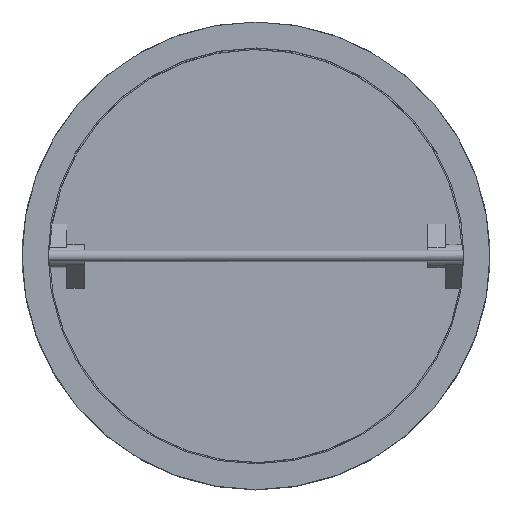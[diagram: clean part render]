
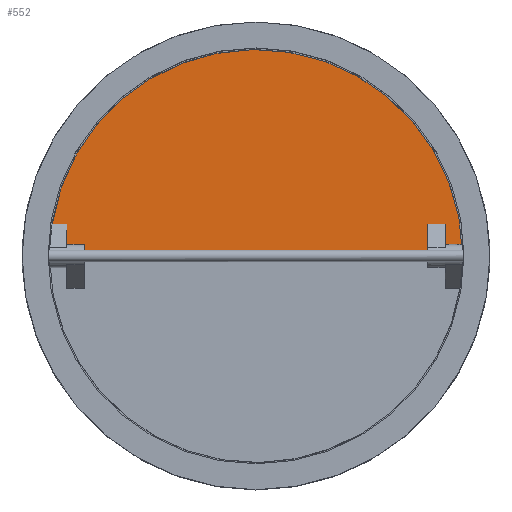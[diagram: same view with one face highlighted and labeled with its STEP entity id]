
A CAD part, top view. The second image highlights one B-rep face of the part: STEP entity #552.
In plain terms, the highlighted planar face has unit normal (0, 0, 1).
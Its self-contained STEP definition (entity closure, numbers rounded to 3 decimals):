
#552=ADVANCED_FACE('',(#1133),#1135,.T.);
#1133=FACE_BOUND('',#1134,.T.);
#1134=EDGE_LOOP('',(#1544,#1545,#1546,#1547,#1548,#1549,#1550,#1551));
#1135=PLANE('',#1136);
#1136=AXIS2_PLACEMENT_3D('',#1137,#1138,#1139);
#1137=CARTESIAN_POINT('',(0.,0.,59.));
#1138=DIRECTION('',(0.,0.,1.));
#1139=DIRECTION('',(0.,1.,0.));
#1544=ORIENTED_EDGE('',*,*,#1804,.F.);
#1545=ORIENTED_EDGE('',*,*,#1805,.F.);
#1546=ORIENTED_EDGE('',*,*,#1767,.T.);
#1547=ORIENTED_EDGE('',*,*,#1806,.F.);
#1548=ORIENTED_EDGE('',*,*,#1807,.F.);
#1549=ORIENTED_EDGE('',*,*,#1808,.F.);
#1550=ORIENTED_EDGE('',*,*,#1763,.T.);
#1551=ORIENTED_EDGE('',*,*,#1759,.T.);
#1759=EDGE_CURVE('',#2036,#2034,#2037,.T.);
#1763=EDGE_CURVE('',#2042,#2036,#2043,.T.);
#1767=EDGE_CURVE('',#2050,#2048,#2051,.T.);
#1804=EDGE_CURVE('',#2111,#2034,#2113,.T.);
#1805=EDGE_CURVE('',#2050,#2111,#2114,.T.);
#1806=EDGE_CURVE('',#2115,#2048,#2116,.F.);
#1807=EDGE_CURVE('',#2117,#2115,#2118,.T.);
#1808=EDGE_CURVE('',#2042,#2117,#2119,.T.);
#2034=VERTEX_POINT('',#3713);
#2036=VERTEX_POINT('',#3718);
#2037=CIRCLE('',#3719,357.5);
#2042=VERTEX_POINT('',#3733);
#2043=LINE('',#3734,#3735);
#2048=VERTEX_POINT('',#3745);
#2050=VERTEX_POINT('',#3749);
#2051=LINE('',#3750,#3751);
#2111=VERTEX_POINT('',#4086);
#2113=LINE('',#4090,#4091);
#2114=LINE('',#4093,#4094);
#2115=VERTEX_POINT('',#4096);
#2116=LINE('',#4097,#4098);
#2117=VERTEX_POINT('',#4100);
#2118=LINE('',#4101,#4102);
#2119=LINE('',#4104,#4105);
#3713=CARTESIAN_POINT('',(-353.169,55.477,59.));
#3718=CARTESIAN_POINT('',(357.478,4.,59.));
#3719=AXIS2_PLACEMENT_3D('',#3720,#3721,#3722);
#3720=CARTESIAN_POINT('',(0.,0.,59.));
#3721=DIRECTION('',(0.,0.,1.));
#3722=DIRECTION('',(1.,0.011,0.));
#3733=CARTESIAN_POINT('',(327.522,4.,59.));
#3734=CARTESIAN_POINT('',(327.522,4.,59.));
#3735=VECTOR('',#3736,1.);
#3736=DIRECTION('',(1.,0.,0.));
#3745=CARTESIAN_POINT('',(297.522,4.,59.));
#3749=CARTESIAN_POINT('',(-327.478,4.,59.));
#3750=CARTESIAN_POINT('',(-327.478,4.,59.));
#3751=VECTOR('',#3752,1.);
#3752=DIRECTION('',(1.,0.,0.));
#4086=CARTESIAN_POINT('',(-327.478,55.477,59.));
#4090=CARTESIAN_POINT('',(-327.478,55.477,59.));
#4091=VECTOR('',#4092,1.);
#4092=DIRECTION('',(-1.,0.,0.));
#4093=CARTESIAN_POINT('',(-327.478,4.,59.));
#4094=VECTOR('',#4095,1.);
#4095=DIRECTION('',(0.,1.,0.));
#4096=CARTESIAN_POINT('',(297.522,55.477,59.));
#4097=CARTESIAN_POINT('',(297.522,4.,59.));
#4098=VECTOR('',#4099,1.);
#4099=DIRECTION('',(0.,1.,0.));
#4100=CARTESIAN_POINT('',(327.522,55.477,59.));
#4101=CARTESIAN_POINT('',(327.522,55.477,59.));
#4102=VECTOR('',#4103,1.);
#4103=DIRECTION('',(-1.,0.,0.));
#4104=CARTESIAN_POINT('',(327.522,4.,59.));
#4105=VECTOR('',#4106,1.);
#4106=DIRECTION('',(0.,1.,0.));
